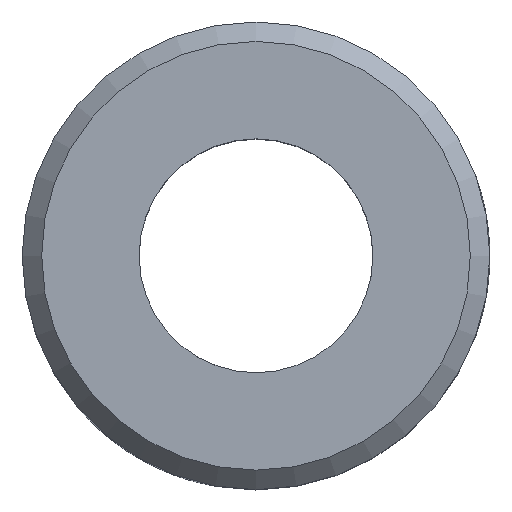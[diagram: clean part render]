
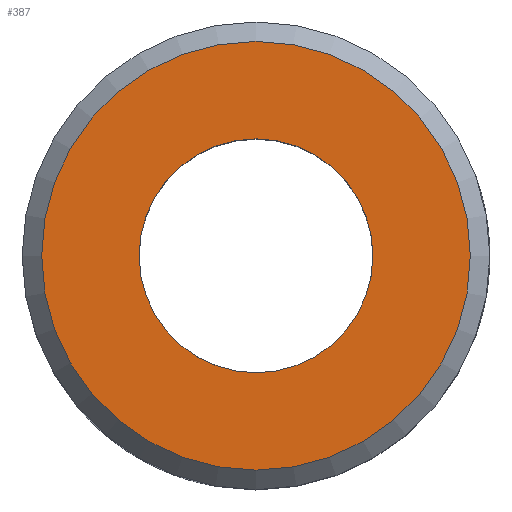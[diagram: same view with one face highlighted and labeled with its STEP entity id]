
A CAD part, top view. The second image highlights one B-rep face of the part: STEP entity #387.
In plain terms, the highlighted planar face has unit normal (0, 0, 1).
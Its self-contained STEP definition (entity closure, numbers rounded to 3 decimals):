
#12 = CARTESIAN_POINT ( 'NONE',  ( 3., 0., 3. ) ) ;
#78 = DIRECTION ( 'NONE',  ( 0., 0., 1. ) ) ;
#81 = AXIS2_PLACEMENT_3D ( 'NONE', #404, #78, #269 ) ;
#98 = FACE_OUTER_BOUND ( 'NONE', #174, .T. ) ;
#103 = VERTEX_POINT ( 'NONE', #175 ) ;
#107 = DIRECTION ( 'NONE',  ( 1., 0., 0. ) ) ;
#111 = CIRCLE ( 'NONE', #81, 5.5 ) ;
#137 = AXIS2_PLACEMENT_3D ( 'NONE', #319, #197, #226 ) ;
#145 = VERTEX_POINT ( 'NONE', #12 ) ;
#174 = EDGE_LOOP ( 'NONE', ( #177 ) ) ;
#175 = CARTESIAN_POINT ( 'NONE',  ( 5.5, 0., 3. ) ) ;
#177 = ORIENTED_EDGE ( 'NONE', *, *, #240, .T. ) ;
#178 = DIRECTION ( 'NONE',  ( 0., 0., 1. ) ) ;
#183 = EDGE_LOOP ( 'NONE', ( #314 ) ) ;
#188 = AXIS2_PLACEMENT_3D ( 'NONE', #397, #178, #107 ) ;
#196 = CIRCLE ( 'NONE', #188, 3. ) ;
#197 = DIRECTION ( 'NONE',  ( 0., 0., 1. ) ) ;
#226 = DIRECTION ( 'NONE',  ( 1., 0., 0. ) ) ;
#240 = EDGE_CURVE ( 'NONE', #103, #103, #111, .T. ) ;
#255 = FACE_BOUND ( 'NONE', #183, .T. ) ;
#256 = EDGE_CURVE ( 'NONE', #145, #145, #196, .T. ) ;
#269 = DIRECTION ( 'NONE',  ( 1., 0., 0. ) ) ;
#314 = ORIENTED_EDGE ( 'NONE', *, *, #256, .F. ) ;
#319 = CARTESIAN_POINT ( 'NONE',  ( 0., 0., 3. ) ) ;
#347 = PLANE ( 'NONE',  #137 ) ;
#387 = ADVANCED_FACE ( 'NONE', ( #98, #255 ), #347, .T. ) ;
#397 = CARTESIAN_POINT ( 'NONE',  ( 0., 0., 3. ) ) ;
#404 = CARTESIAN_POINT ( 'NONE',  ( 0., 0., 3. ) ) ;
